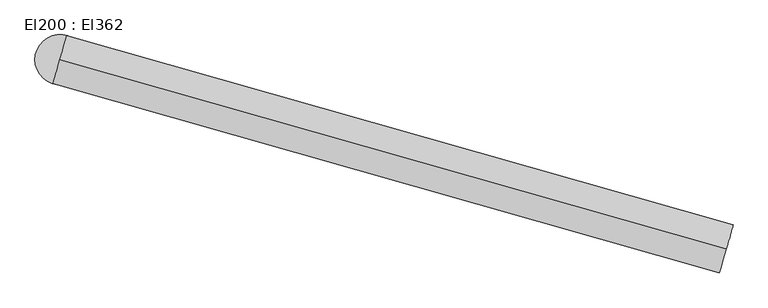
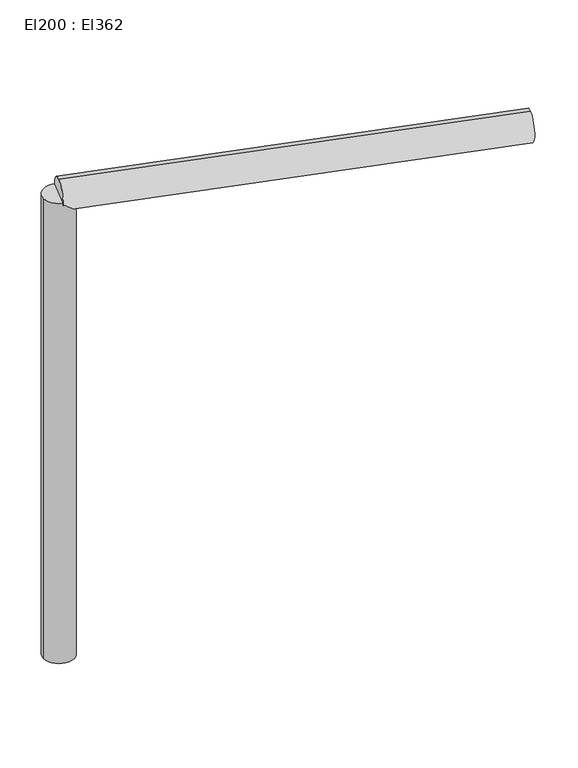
"""IFC4 building model written with IfcOpenShell, lengths in millimetres: cable carrier segment geometry, El200 : El362."""

import ifcopenshell
import ifcopenshell.guid

model = None  # the IFC model being written
_history = None  # IfcOwnerHistory: only IFC2X3 demands one
_inside = {}  # id of a spatial element -> (the spatial element, [elements in it])
_under = {}  # id of a project, library or spatial element -> (it, [spatial elements below it])
_declared = {}  # id of a project -> (the project, [libraries it declares])
_typed = {}  # id of a type object -> (the type object, [elements of that type])
_made_of = {}  # id of a material, layer set ... -> (it, [elements and type objects made of it])


def new_model(schema):
    """Start an empty IFC model of exactly this schema.

    Asked for "IFC4X3", IfcOpenShell would pick the latest addendum, in which some entities
    have other attributes; the version numbers below select the first issue.
    IFC2X3 requires an IfcOwnerHistory on every rooted entity: one is made here for all.
    """
    global model, _history
    if schema == "IFC4X3":
        model = ifcopenshell.file(schema_version=(4, 3, 0, 0))
    else:
        model = ifcopenshell.file(schema=schema)
    _inside.clear()
    _under.clear()
    _declared.clear()
    _typed.clear()
    _made_of.clear()
    _history = None
    if model.schema == "IFC2X3":
        org = make("IfcOrganization", Name="unknown")
        user = make(
            "IfcPersonAndOrganization",
            ThePerson=make("IfcPerson", FamilyName="unknown"),
            TheOrganization=org,
        )
        app = make(
            "IfcApplication",
            ApplicationDeveloper=org,
            Version="unknown",
            ApplicationFullName="unknown",
            ApplicationIdentifier="unknown",
        )
        _history = make(
            "IfcOwnerHistory",
            OwningUser=user,
            OwningApplication=app,
            ChangeAction="ADDED",
            CreationDate=0,
        )
    return model


def make(cls, **values):
    """One entity of the class cls with the attributes given. An attribute that is None is left unset."""
    return model.create_entity(
        cls, **{name: value for name, value in values.items() if value is not None}
    )


def rooted(cls, **values):
    """An entity with a GlobalId (a new one), such as an element, a storey or a relation."""
    return make(cls, GlobalId=ifcopenshell.guid.new(), OwnerHistory=_history, **values)


def si_unit(unit_type, name, prefix=None):
    """IfcSIUnit, for example si_unit("LENGTHUNIT", "METRE", prefix="MILLI")."""
    return make("IfcSIUnit", UnitType=unit_type, Prefix=prefix, Name=name)


def assignment(units):
    """IfcUnitAssignment: the units of a project."""
    return None if units is None else make("IfcUnitAssignment", Units=units)


def point(xyz):
    """IfcCartesianPoint."""
    return None if xyz is None else make("IfcCartesianPoint", Coordinates=xyz)


def direction(xyz):
    """IfcDirection."""
    return None if xyz is None else make("IfcDirection", DirectionRatios=xyz)


def frame(location, z_axis=None, x_axis=None):
    """IfcAxis2Placement3D, a coordinate frame: its origin and axes. An axis left out is left unset."""
    return make(
        "IfcAxis2Placement3D",
        Location=point(location),
        Axis=direction(z_axis),
        RefDirection=direction(x_axis),
    )


def frame_2d(location, x_axis=None):
    """IfcAxis2Placement2D, a coordinate frame in the plane: its origin and x axis."""
    return make(
        "IfcAxis2Placement2D", Location=point(location), RefDirection=direction(x_axis)
    )


def origin():
    """The frame at (0, 0, 0) with its axes left unset."""
    return frame((0.0, 0.0, 0.0))


def place(relative_to, where):
    """IfcLocalPlacement: puts the frame where relative to a parent placement (None: the world)."""
    return make(
        "IfcLocalPlacement", PlacementRelTo=relative_to, RelativePlacement=where
    )


def context(
    kind, dimensions, precision=None, world=None, true_north=None, identifier=None
):
    """IfcGeometricRepresentationContext, for example the 3D "Model" context."""
    return make(
        "IfcGeometricRepresentationContext",
        ContextIdentifier=identifier,
        ContextType=kind,
        CoordinateSpaceDimension=dimensions,
        Precision=precision,
        WorldCoordinateSystem=world,
        TrueNorth=true_north,
    )


def project(units=None, contexts=None):
    """IfcProject with its units and contexts."""
    return rooted(
        "IfcProject",
        Name="project",
        RepresentationContexts=contexts,
        UnitsInContext=assignment(units),
    )


def spatial(cls, under=None, at=None, **own):
    """A site, building, storey or space (cls), placed at a placement, below another one or the project."""
    s = rooted(cls, ObjectPlacement=at, **own)
    if under is not None:
        _under.setdefault(under.id(), (under, []))[1].append(s)
    return s


def circle_curve(where, radius):
    """IfcCircle in the frame where."""
    return make("IfcCircle", Position=where, Radius=radius)


def trimmed(basis, trim1, trim2, sense, master):
    """IfcTrimmedCurve: the piece of a basis curve between two trims."""
    return make(
        "IfcTrimmedCurve",
        BasisCurve=basis,
        Trim1=trim1,
        Trim2=trim2,
        SenseAgreement=sense,
        MasterRepresentation=master,
    )


def segment(curve, same_sense, transition):
    """IfcCompositeCurveSegment."""
    return make(
        "IfcCompositeCurveSegment",
        Transition=transition,
        SameSense=same_sense,
        ParentCurve=curve,
    )


def composite_curve(segments, self_intersect=None):
    """IfcCompositeCurve: segments joined end to end."""
    return make("IfcCompositeCurve", Segments=segments, SelfIntersect=self_intersect)


def outline(outer, holes=None, kind="AREA"):
    """IfcArbitraryClosedProfileDef: a profile drawn as a closed curve; with holes, ...WithVoids."""
    if holes is None:
        return make("IfcArbitraryClosedProfileDef", ProfileType=kind, OuterCurve=outer)
    return make(
        "IfcArbitraryProfileDefWithVoids",
        ProfileType=kind,
        OuterCurve=outer,
        InnerCurves=holes,
    )


def extrude(swept, where, along, depth):
    """IfcExtrudedAreaSolid: the profile swept, set in the frame where, extruded along a direction by depth."""
    return make(
        "IfcExtrudedAreaSolid",
        SweptArea=swept,
        Position=where,
        ExtrudedDirection=direction(along),
        Depth=depth,
    )


def shape(context_of_items, identifier, shape_type, items):
    """IfcShapeRepresentation: the items that make up one representation, for example the "Body"."""
    return make(
        "IfcShapeRepresentation",
        ContextOfItems=context_of_items,
        RepresentationIdentifier=identifier,
        RepresentationType=shape_type,
        Items=items,
    )


def source(mapping_origin, context_of_items, identifier, shape_type, items):
    """IfcRepresentationMap: a shape defined once, which mapped items show again and again."""
    return make(
        "IfcRepresentationMap",
        MappingOrigin=mapping_origin,
        MappedRepresentation=shape(context_of_items, identifier, shape_type, items),
    )


def transform(
    local_origin,
    x_axis=None,
    y_axis=None,
    z_axis=None,
    scale=None,
    scale2=None,
    scale3=None,
    uniform=True,
):
    """IfcCartesianTransformationOperator3D, or its non-uniform kind. x_axis, y_axis, z_axis: its Axis1, 2, 3."""
    if uniform:
        return make(
            "IfcCartesianTransformationOperator3D",
            Axis1=direction(x_axis),
            Axis2=direction(y_axis),
            LocalOrigin=point(local_origin),
            Scale=scale,
            Axis3=direction(z_axis),
        )
    return make(
        "IfcCartesianTransformationOperator3DnonUniform",
        Axis1=direction(x_axis),
        Axis2=direction(y_axis),
        LocalOrigin=point(local_origin),
        Scale=scale,
        Axis3=direction(z_axis),
        Scale2=scale2,
        Scale3=scale3,
    )


def mapped(mapping_source, mapping_target):
    """IfcMappedItem: shows the shape of a source again, moved by a transform."""
    return make(
        "IfcMappedItem", MappingSource=mapping_source, MappingTarget=mapping_target
    )


def made_of(thing, what):
    """Note that an element or type object is made of a material, layer set ...; save() writes the relation."""
    if what is not None:
        _made_of.setdefault(what.id(), (what, []))[1].append(thing)
    return thing


def element(
    cls,
    number,
    at=None,
    inside=None,
    cuts=None,
    type_object=None,
    material=None,
    context=None,
    identifier="Body",
    shape_type=None,
    held_by="IfcProductDefinitionShape",
    body=None,
    shapes=None,
    **own,
):
    """One element of the class cls, such as IfcWall. Its Tag is "e" and its number.

    at: its placement. inside: the storey or other place that contains it. cuts: it is an
    opening in that element (IfcRelVoidsElement). A single representation is given by context,
    identifier, shape_type and body (its items); several are given by shapes. held_by: the class
    of the entity that holds the representations. save() writes the other relations.
    """
    e = rooted(cls, Tag="e%d" % number, ObjectPlacement=at, **own)
    if body is not None:
        shapes = [shape(context, identifier, shape_type, body)]
    if shapes is not None:
        e.Representation = make(held_by, Representations=shapes)
    if inside is not None:
        _inside.setdefault(inside.id(), (inside, []))[1].append(e)
    if cuts is not None:
        rooted(
            "IfcRelVoidsElement", RelatingBuildingElement=cuts, RelatedOpeningElement=e
        )
    if type_object is not None:
        _typed.setdefault(type_object.id(), (type_object, []))[1].append(e)
    return made_of(e, material)


def aggregate(whole, parts):
    """IfcRelAggregates: a whole, such as a stair, and the parts it consists of."""
    return rooted("IfcRelAggregates", RelatingObject=whole, RelatedObjects=parts)


def save(model, path):
    """Write the relations noted so far, then the file.

    IfcRelAggregates (storeys below a building ...), IfcRelContainedInSpatialStructure (elements
    in a storey), IfcRelDefinesByType, IfcRelAssociatesMaterial and IfcRelDeclares: one each for
    every whole, place, type object, material and project.
    """
    for whole, parts in _under.values():
        aggregate(whole, parts)
    for where, things in _inside.values():
        rooted(
            "IfcRelContainedInSpatialStructure",
            RelatedElements=things,
            RelatingStructure=where,
        )
    for kind, things in _typed.values():
        rooted("IfcRelDefinesByType", RelatedObjects=things, RelatingType=kind)
    for what, things in _made_of.values():
        rooted("IfcRelAssociatesMaterial", RelatedObjects=things, RelatingMaterial=what)
    for by, libraries in _declared.values():
        rooted("IfcRelDeclares", RelatingContext=by, RelatedDefinitions=libraries)
    model.write(path)


def el200_el362_7246fe32(model_context):
    return source(origin(), model_context, "Body", "SweptSolid", [
        extrude(outline(composite_curve([segment(trimmed(circle_curve(frame_2d((0.0, -37.5)), 37.5), [point((0.0, -75.0))], [point((0.0, 0.0))], False, "CARTESIAN"), True, "CONTINUOUS"), segment(trimmed(circle_curve(frame_2d((0.0, -37.5)), 37.5), [point((0.0, 0.0))], [point((0.0, -75.0))], False, "CARTESIAN"), True, "CONTINUOUS")], self_intersect=False)), frame((23017.4133404, 4615.9831106, 2737.5), z_axis=(-0.9618170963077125, 0.2736930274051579, 0.0), x_axis=(-0.2736930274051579, -0.9618170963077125, 0.0)), (0.0, 0.0, 1.0), 1039.95),
        extrude(outline(composite_curve([segment(trimmed(circle_curve(frame_2d((22017.1716511, 4900.6101745)), 37.5), [point((21979.6716511, 4900.6101745))], [point((22054.6716511, 4900.6101745))], False, "CARTESIAN"), True, "CONTINUOUS"), segment(trimmed(circle_curve(frame_2d((22017.1716511, 4900.6101745)), 37.5), [point((22054.6716511, 4900.6101745))], [point((21979.6716511, 4900.6101745))], False, "CARTESIAN"), True, "CONTINUOUS")], self_intersect=False)), frame((0.0, 0.0, 1500.0), z_axis=(0.0, 0.0, 1.0), x_axis=(1.0, 0.0, 0.0)), (0.0, 0.0, 1.0), 1200.0),
    ])


if __name__ == "__main__":
    model = new_model("IFC4")
    model_context = context("Model", 3, world=origin())
    ifc_project = project(units=[si_unit("LENGTHUNIT", "METRE", prefix="MILLI")], contexts=[model_context])
    site = spatial("IfcSite", under=ifc_project)
    building = spatial("IfcBuilding", under=site)
    placement = place(None, origin())
    el200_el362_shape = el200_el362_7246fe32(model_context)
    element("IfcCableCarrierSegment", 1, ObjectType="El200 : El362", at=placement, inside=building, context=model_context, shape_type="MappedRepresentation", body=[
        mapped(el200_el362_shape, transform((0.0, 0.0, 0.0), x_axis=(1.0, 0.0, 0.0), y_axis=(0.0, 1.0, 0.0), z_axis=(0.0, 0.0, 1.0))),
    ])
    save(model, "model.ifc")
